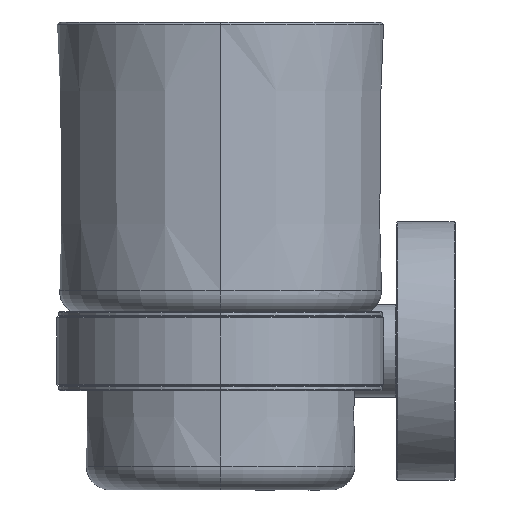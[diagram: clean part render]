
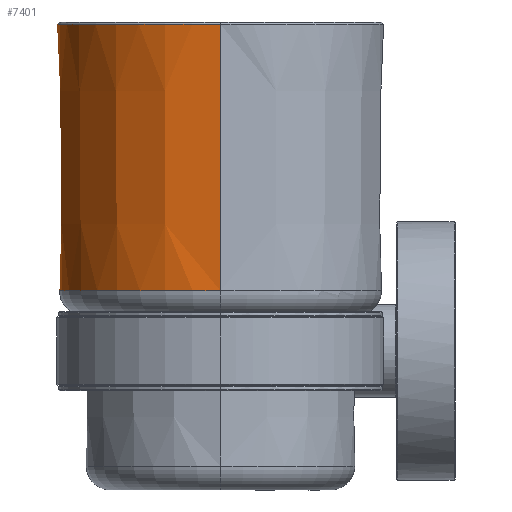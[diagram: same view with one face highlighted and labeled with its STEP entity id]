
A CAD part, left-side view. The second image highlights one B-rep face of the part: STEP entity #7401.
In plain terms, the highlighted conical face has half-angle 0.5 degrees and reference radius 33.042 mm.
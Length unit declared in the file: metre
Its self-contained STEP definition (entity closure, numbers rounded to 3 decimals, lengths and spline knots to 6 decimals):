
#7160=VERTEX_POINT('',#7161);
#7161=CARTESIAN_POINT('',(-0.083019,0.0481,0.066996));
#7169=VERTEX_POINT('',#7170);
#7170=CARTESIAN_POINT('',(-0.015981,0.0481,0.066996));
#7401=ADVANCED_FACE('',(#7407),#7402,.T.);
#7402=CONICAL_SURFACE('',#7403,0.033042,0.009);
#7403=AXIS2_PLACEMENT_3D('',#7404,#7405,#7406);
#7404=CARTESIAN_POINT('',(-0.0495,0.0481,0.012361));
#7405=DIRECTION('',(0.0,0.0,1.0));
#7406=DIRECTION('',(1.0,0.0,0.0));
#7407=FACE_OUTER_BOUND('',#7408,.T.);
#7408=EDGE_LOOP('',(#7409,#7420,#7426,#7433));
#7409=ORIENTED_EDGE('',*,*,#7410,.T.);
#7410=EDGE_CURVE('',#7411,#7413,#7415,.T.);
#7411=VERTEX_POINT('',#7412);
#7412=CARTESIAN_POINT('',(-0.016458,0.0481,0.012361));
#7413=VERTEX_POINT('',#7414);
#7414=CARTESIAN_POINT('',(-0.082542,0.0481,0.012361));
#7415=CIRCLE('',#7416,0.033042);
#7416=AXIS2_PLACEMENT_3D('',#7417,#7418,#7419);
#7417=CARTESIAN_POINT('',(-0.0495,0.0481,0.012361));
#7418=DIRECTION('',(0.0,0.0,1.0));
#7419=DIRECTION('',(1.0,0.0,0.0));
#7420=ORIENTED_EDGE('',*,*,#7421,.T.);
#7421=EDGE_CURVE('',#7413,#7160,#7422,.T.);
#7422=LINE('',#7423,#7424);
#7423=CARTESIAN_POINT('',(-0.082542,0.0481,0.012361));
#7424=VECTOR('',#7425,1.);
#7425=DIRECTION('',(-0.009,0.0,1.));
#7426=ORIENTED_EDGE('',*,*,#7427,.T.);
#7427=EDGE_CURVE('',#7160,#7169,#7428,.T.);
#7428=CIRCLE('',#7429,0.033519);
#7429=AXIS2_PLACEMENT_3D('',#7430,#7431,#7432);
#7430=CARTESIAN_POINT('',(-0.0495,0.0481,0.066996));
#7431=DIRECTION('',(0.0,0.0,-1.0));
#7432=DIRECTION('',(-1.0,0.0,0.0));
#7433=ORIENTED_EDGE('',*,*,#7434,.F.);
#7434=EDGE_CURVE('',#7411,#7169,#7435,.T.);
#7435=LINE('',#7436,#7437);
#7436=CARTESIAN_POINT('',(-0.016458,0.0481,0.012361));
#7437=VECTOR('',#7438,1.);
#7438=DIRECTION('',(0.009,0.0,1.));
